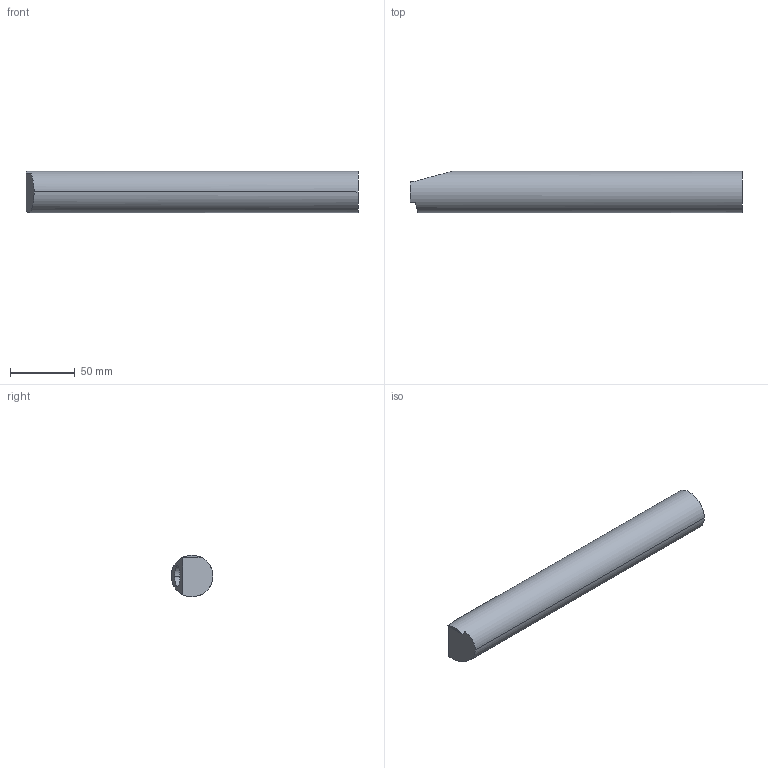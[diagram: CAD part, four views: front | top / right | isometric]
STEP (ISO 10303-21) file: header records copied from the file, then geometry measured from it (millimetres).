
FILE_DESCRIPTION( (''), '2;1');
FILE_NAME ('SY-2080-16_TH-32251-D.stp','2022-04-09T19:28:14',(''),(''),'spGate 18.9.3 (****-****-****-****)','','');
FILE_SCHEMA (('AUTOMOTIVE_DESIGN'));
Length unit declared in the file: millimetre
Products named in the file (2): Assembly; SY-2080-16_TH-32251-D-prt0
Assembly tree (1 placements, depth 2):
  Assembly
    SY-2080-16_TH-32251-D-prt0
Bounding box: 255.45 x 32 x 32 mm (x, y, z)
Volume: 181125.7 mm3; surface area: 34478.4 mm2
Topology: 1 solids, 1 shells, 23 faces, 50 edges, 28 vertices
Faces by surface type: bspline 10, plane 7, cylinder 6
Entity records: 1075 total; most frequent: CARTESIAN_POINT 219, ORIENTED_EDGE 92, DIRECTION 79, COLOUR_RGB 70, PRESENTATION_STYLE_ASSIGNMENT 70, STYLED_ITEM 70, EDGE_CURVE 46, DRAUGHTING_PRE_DEFINED_CURVE_FONT 46
